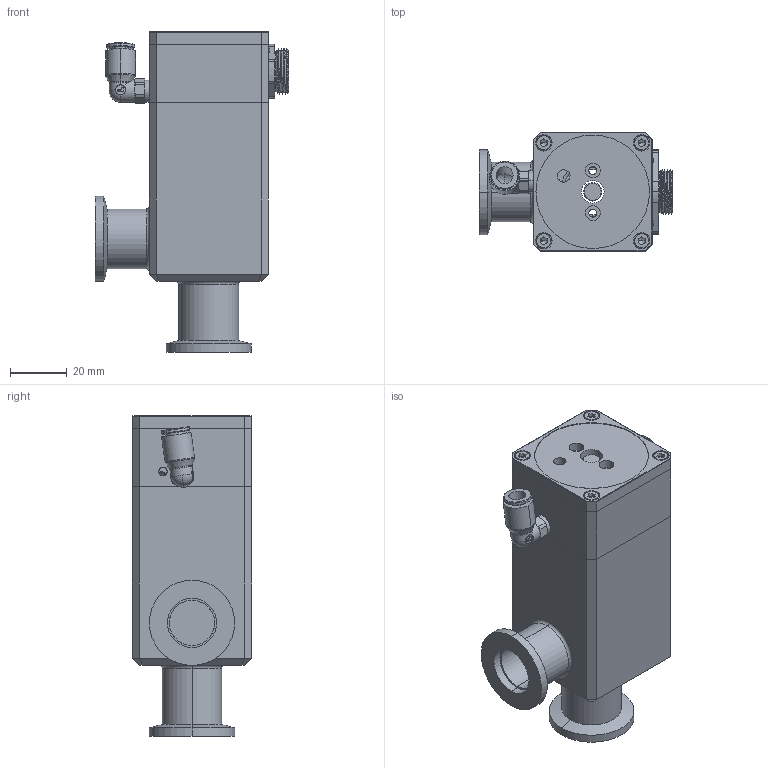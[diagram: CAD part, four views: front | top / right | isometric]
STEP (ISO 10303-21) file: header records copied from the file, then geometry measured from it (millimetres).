
FILE_DESCRIPTION (( 'STEP AP203' ), '1' );
FILE_NAME ('KF16褒概.STEP', '2021-09-21T14:41:22', ( '' ), ( '' ), 'SwSTEP 2.0', 'SolidWorks 2016', '' );
FILE_SCHEMA (( 'CONFIG_CONTROL_DESIGN' ));
Length unit declared in the file: millimetre
Products named in the file (1): KF16褒概
Bounding box: 68.2 x 42 x 113 mm (x, y, z)
Surface area: 28387.2 mm2 (no closed solid volume)
Topology: 0 solids, 23 shells, 326 faces, 950 edges, 615 vertices
Faces by surface type: plane 130, cylinder 117, cone 39, torus 32, bspline 6, sphere 2
Entity records: 14157 total; most frequent: CARTESIAN_POINT 5535, DIRECTION 1916, ORIENTED_EDGE 1548, EDGE_CURVE 931, AXIS2_PLACEMENT_3D 727, VERTEX_POINT 615, VECTOR 462, LINE 462
